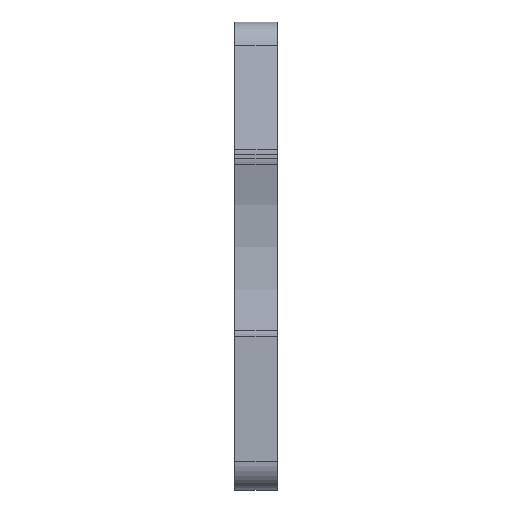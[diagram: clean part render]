
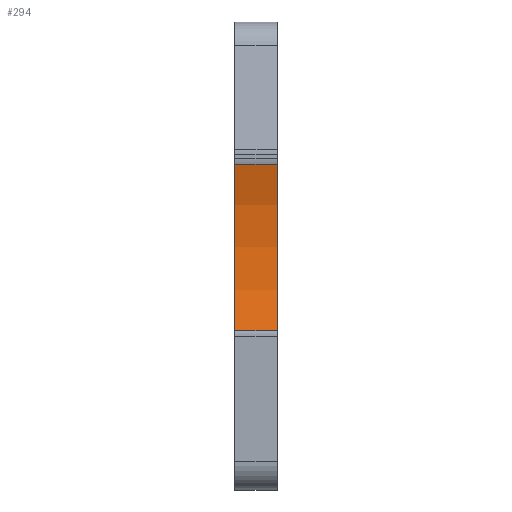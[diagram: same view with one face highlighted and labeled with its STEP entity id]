
A CAD part, front view. The second image highlights one B-rep face of the part: STEP entity #294.
In plain terms, the highlighted cylindrical face has radius 15 mm (diameter 30 mm), a partial arc.
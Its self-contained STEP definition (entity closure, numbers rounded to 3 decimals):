
#39 = CYLINDRICAL_SURFACE ( 'NONE', #563, 15. ) ;
#53 = LINE ( 'NONE', #594, #283 ) ;
#179 = DIRECTION ( 'NONE',  ( 1., 0., 0. ) ) ;
#283 = VECTOR ( 'NONE', #1127, 1000. ) ;
#294 = ADVANCED_FACE ( 'NONE', ( #458 ), #39, .F. ) ;
#317 = CIRCLE ( 'NONE', #1307, 15. ) ;
#345 = EDGE_CURVE ( 'NONE', #1340, #844, #53, .T. ) ;
#458 = FACE_OUTER_BOUND ( 'NONE', #633, .T. ) ;
#527 = ORIENTED_EDGE ( 'NONE', *, *, #577, .T. ) ;
#539 = CARTESIAN_POINT ( 'NONE',  ( 2.2, 4.793, 18.74 ) ) ;
#563 = AXIS2_PLACEMENT_3D ( 'NONE', #1680, #1667, #1521 ) ;
#577 = EDGE_CURVE ( 'NONE', #609, #1340, #1388, .T. ) ;
#594 = CARTESIAN_POINT ( 'NONE',  ( 2.2, 4.793, 27.46 ) ) ;
#609 = VERTEX_POINT ( 'NONE', #539 ) ;
#633 = EDGE_LOOP ( 'NONE', ( #827, #1659, #527, #688 ) ) ;
#650 = AXIS2_PLACEMENT_3D ( 'NONE', #657, #1608, #822 ) ;
#657 = CARTESIAN_POINT ( 'NONE',  ( 2.2, -9.559, 23.1 ) ) ;
#677 = CARTESIAN_POINT ( 'NONE',  ( 2.2, 4.793, 27.46 ) ) ;
#688 = ORIENTED_EDGE ( 'NONE', *, *, #345, .T. ) ;
#753 = DIRECTION ( 'NONE',  ( 0., 0.957, 0.291 ) ) ;
#822 = DIRECTION ( 'NONE',  ( 0., 0.957, -0.291 ) ) ;
#827 = ORIENTED_EDGE ( 'NONE', *, *, #897, .T. ) ;
#844 = VERTEX_POINT ( 'NONE', #886 ) ;
#868 = CARTESIAN_POINT ( 'NONE',  ( 0., 4.793, 18.74 ) ) ;
#886 = CARTESIAN_POINT ( 'NONE',  ( 0., 4.793, 27.46 ) ) ;
#897 = EDGE_CURVE ( 'NONE', #844, #1546, #317, .T. ) ;
#1127 = DIRECTION ( 'NONE',  ( -1., 0., 0. ) ) ;
#1307 = AXIS2_PLACEMENT_3D ( 'NONE', #1561, #1429, #753 ) ;
#1340 = VERTEX_POINT ( 'NONE', #677 ) ;
#1388 = CIRCLE ( 'NONE', #650, 15. ) ;
#1396 = LINE ( 'NONE', #868, #1688 ) ;
#1429 = DIRECTION ( 'NONE',  ( -1., 0., 0. ) ) ;
#1451 = EDGE_CURVE ( 'NONE', #1546, #609, #1396, .T. ) ;
#1521 = DIRECTION ( 'NONE',  ( 0., 0.957, 0.291 ) ) ;
#1546 = VERTEX_POINT ( 'NONE', #1568 ) ;
#1561 = CARTESIAN_POINT ( 'NONE',  ( 0., -9.559, 23.1 ) ) ;
#1568 = CARTESIAN_POINT ( 'NONE',  ( 0., 4.793, 18.74 ) ) ;
#1608 = DIRECTION ( 'NONE',  ( 1., 0., 0. ) ) ;
#1659 = ORIENTED_EDGE ( 'NONE', *, *, #1451, .T. ) ;
#1667 = DIRECTION ( 'NONE',  ( -1., 0., 0. ) ) ;
#1680 = CARTESIAN_POINT ( 'NONE',  ( 2.2, -9.559, 23.1 ) ) ;
#1688 = VECTOR ( 'NONE', #179, 1000. ) ;
